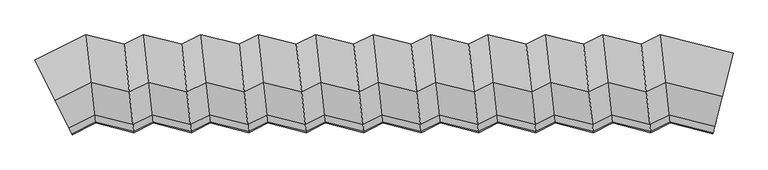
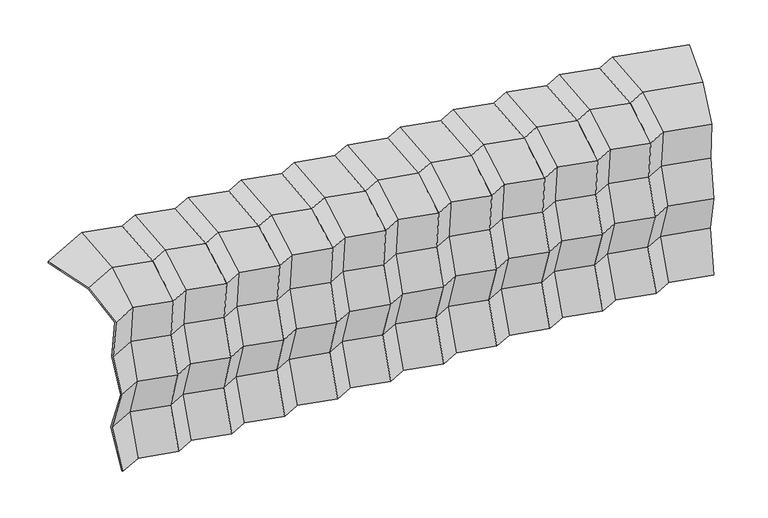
"""IFC4 building model written with IfcOpenShell, lengths in millimetres: proxy geometry, zagle_boczne : zagle_boczne."""

from ifc_helpers import new_model, si_unit, origin, place, context, project, spatial, faceted_brep, source, transform, mapped, element, save


def generic_models_0b0fc4db(model_context):
    return source(origin(), model_context, "Body", "Brep", [
        faceted_brep([(131358.2338018, 49708.468168, 6742.3586406), (131823.589123, 48777.7575256, 5820.7159812), (131775.8854941, 48873.1647835, 4409.9260399), (131926.6470181, 48571.6417353, 3008.5509151), (131758.6982772, 48907.5392172, 1584.7758945), (131946.6427942, 48531.6501832, -8.5120758), (131966.3273537, 48492.2810643, -8.5120758), (131778.3828367, 48868.1700982, 1584.7758945), (131948.0648358, 48528.8060999, 3023.2445038), (131798.4472815, 48828.0412087, 4413.9860753), (131846.7228839, 48731.4900038, 5841.6915938), (131369.2671963, 49686.401379, 6787.2991965), (130665.0257715, 51094.8842286, 7238.8462448), (130665.0257715, 51094.8842286, 7186.8312731), (154607.8434705, 49844.7473893, 6742.3586406), (154983.6387071, 51348.5641357, 7186.8312731), (154983.6387071, 51348.5641357, 7238.8462448), (154601.8621534, 49820.8120009, 6787.2991965), (154343.0284913, 48785.0394373, 5841.6915938), (154369.1991942, 48889.7665268, 4413.9860753), (154288.0899719, 48565.1924105, 3023.2445038), (154380.0763371, 48933.293501, 1584.7758945), (154278.1896723, 48525.5744619, -8.5120758), (154288.8608754, 48568.2773287, -8.5120758), (154390.7475402, 48975.9963678, 1584.7758945), (154299.7007922, 48611.6553358, 3008.5509151), (154381.4301723, 48938.7111325, 4409.9260399), (154355.5695421, 48835.2248586, 5820.7159812), (148747.5275343, 49236.642603, 5820.7159812), (148626.4118587, 50339.4730683, 6742.3586406), (149960.497165, 50006.0927515, 6742.3586406), (150081.6128406, 48903.2622863, 5820.7159812), (148735.1119521, 49349.6938843, 4409.9260399), (150069.1972584, 49016.3135676, 4409.9260399), (148730.6387221, 49390.4253114, 1584.7758945), (148774.3498914, 48992.4090438, 3008.5509151), (150108.4351977, 48659.028727, 3008.5509151), (150064.7240284, 49057.0449947, 1584.7758945), (148779.9241985, 48941.6516531, 3023.2445038), (148735.7619228, 49343.7755131, 1584.7758945), (150069.8472292, 49010.3951964, 1584.7758945), (150114.0095048, 48608.2713363, 3023.2445038), (148445.994111, 51982.2842702, 7186.8312731), (148445.994111, 51982.2842702, 7238.8462448), (149780.0794174, 51648.9039535, 7238.8462448), (149780.0794174, 51648.9039535, 7186.8312731), (136742.8514598, 49236.5427542, 5820.7159812), (136621.7357842, 50339.3732194, 6742.3586406), (137955.4215262, 50006.0927515, 6742.3586406), (138076.5372018, 48903.2622863, 5820.7159812), (136730.4358776, 49349.5940355, 4409.9260399), (138064.1216196, 49016.3135676, 4409.9260399), (136725.9626476, 49390.3254626, 1584.7758945), (136769.6738169, 48992.3091949, 3008.5509151), (138103.3595589, 48659.028727, 3008.5509151), (138059.6483896, 49057.0449947, 1584.7758945), (136775.248124, 48941.5518042, 3023.2445038), (136731.0858484, 49343.6756642, 1584.7758945), (138064.7715904, 49010.3951964, 1584.7758945), (138108.933866, 48608.2713363, 3023.2445038), (136441.3180366, 51982.1844214, 7186.8312731), (136441.3180366, 51982.1844214, 7238.8462448), (137775.0037786, 51648.9039535, 7238.8462448), (137775.0037786, 51648.9039535, 7186.8312731), (138622.1821597, 50339.4730683, 6742.3586406), (138743.2978353, 49236.642603, 5820.7159812), (138730.8822531, 49349.6938843, 4409.9260399), (138770.1201924, 48992.4090438, 3008.5509151), (138726.4090231, 49390.4253114, 1584.7758945), (138731.5322238, 49343.7755131, 1584.7758945), (138775.6944995, 48941.6516531, 3023.2445038), (138441.7644121, 51982.2842702, 7238.8462448), (138441.7644121, 51982.2842702, 7186.8312731), (139956.267466, 50006.0927515, 6742.3586406), (140077.3831416, 48903.2622863, 5820.7159812), (140064.9675594, 49016.3135676, 4409.9260399), (140104.2054987, 48659.028727, 3008.5509151), (140060.4943294, 49057.0449947, 1584.7758945), (140065.6175302, 49010.3951964, 1584.7758945), (140109.7798058, 48608.2713363, 3023.2445038), (139775.8497184, 51648.9039535, 7238.8462448), (139775.8497184, 51648.9039535, 7186.8312731), (140623.0280995, 50339.4730683, 6742.3586406), (140744.1437751, 49236.642603, 5820.7159812), (140731.7281929, 49349.6938843, 4409.9260399), (140770.9661322, 48992.4090438, 3008.5509151), (140727.2549629, 49390.4253114, 1584.7758945), (140732.3781636, 49343.7755131, 1584.7758945), (140776.5404393, 48941.6516531, 3023.2445038), (140442.6103518, 51982.2842702, 7238.8462448), (140442.6103518, 51982.2842702, 7186.8312731), (141957.1134058, 50006.0927515, 6742.3586406), (142078.2290814, 48903.2622863, 5820.7159812), (142065.8134992, 49016.3135676, 4409.9260399), (142105.0514385, 48659.028727, 3008.5509151), (142061.3402692, 49057.0449947, 1584.7758945), (142066.46347, 49010.3951964, 1584.7758945), (142110.6257456, 48608.2713363, 3023.2445038), (141776.6956582, 51648.9039535, 7238.8462448), (141776.6956582, 51648.9039535, 7186.8312731), (142623.8740393, 50339.4730683, 6742.3586406), (142744.9897149, 49236.642603, 5820.7159812), (142732.5741327, 49349.6938843, 4409.9260399), (142771.812072, 48992.4090438, 3008.5509151), (142728.1009027, 49390.4253114, 1584.7758945), (142733.2241034, 49343.7755131, 1584.7758945), (142777.3863791, 48941.6516531, 3023.2445038), (142443.4562916, 51982.2842702, 7238.8462448), (142443.4562916, 51982.2842702, 7186.8312731), (143957.9593456, 50006.0927515, 6742.3586406), (144079.0750212, 48903.2622863, 5820.7159812), (144066.659439, 49016.3135676, 4409.9260399), (144105.8973783, 48659.028727, 3008.5509151), (144062.186209, 49057.0449947, 1584.7758945), (144067.3094098, 49010.3951964, 1584.7758945), (144111.4716854, 48608.2713363, 3023.2445038), (143777.541598, 51648.9039535, 7238.8462448), (143777.541598, 51648.9039535, 7186.8312731), (144624.7199791, 50339.4730683, 6742.3586406), (144745.8356547, 49236.642603, 5820.7159812), (144733.4200725, 49349.6938843, 4409.9260399), (144772.6580118, 48992.4090438, 3008.5509151), (144728.9468425, 49390.4253114, 1584.7758945), (144734.0700432, 49343.7755131, 1584.7758945), (144778.2323189, 48941.6516531, 3023.2445038), (144444.3022314, 51982.2842702, 7238.8462448), (144444.3022314, 51982.2842702, 7186.8312731), (145958.8052854, 50006.0927515, 6742.3586406), (146079.920961, 48903.2622863, 5820.7159812), (146067.5053788, 49016.3135676, 4409.9260399), (146106.7433181, 48659.028727, 3008.5509151), (146063.0321488, 49057.0449947, 1584.7758945), (146068.1553496, 49010.3951964, 1584.7758945), (146112.3176252, 48608.2713363, 3023.2445038), (145778.3875378, 51648.9039535, 7238.8462448), (145778.3875378, 51648.9039535, 7186.8312731), (146625.5659189, 50339.4730683, 6742.3586406), (146746.6815945, 49236.642603, 5820.7159812), (146734.2660123, 49349.6938843, 4409.9260399), (146773.5039516, 48992.4090438, 3008.5509151), (146729.7927823, 49390.4253114, 1584.7758945), (146734.915983, 49343.7755131, 1584.7758945), (146779.0782587, 48941.6516531, 3023.2445038), (146445.1481712, 51982.2842702, 7238.8462448), (146445.1481712, 51982.2842702, 7186.8312731), (147959.6512252, 50006.0927515, 6742.3586406), (148080.7669008, 48903.2622863, 5820.7159812), (148068.3513186, 49016.3135676, 4409.9260399), (148107.5892579, 48659.028727, 3008.5509151), (148063.8780886, 49057.0449947, 1584.7758945), (148069.0012894, 49010.3951964, 1584.7758945), (148113.163565, 48608.2713363, 3023.2445038), (147779.2334776, 51648.9039535, 7238.8462448), (147779.2334776, 51648.9039535, 7186.8312731), (150627.2577985, 50339.4730683, 6742.3586406), (150748.3734741, 49236.642603, 5820.7159812), (150735.9578919, 49349.6938843, 4409.9260399), (150775.1958312, 48992.4090438, 3008.5509151), (150731.4846619, 49390.4253114, 1584.7758945), (150736.6078626, 49343.7755131, 1584.7758945), (150780.7701383, 48941.6516531, 3023.2445038), (150446.8400508, 51982.2842702, 7238.8462448), (150446.8400508, 51982.2842702, 7186.8312731), (151961.3431048, 50006.0927515, 6742.3586406), (152082.4587804, 48903.2622863, 5820.7159812), (152070.0431982, 49016.3135676, 4409.9260399), (152109.2811375, 48659.028727, 3008.5509151), (152065.5699682, 49057.0449947, 1584.7758945), (152070.693169, 49010.3951964, 1584.7758945), (152114.8554446, 48608.2713363, 3023.2445038), (151780.9253572, 51648.9039535, 7238.8462448), (151780.9253572, 51648.9039535, 7186.8312731), (136774.8780164, 48944.9218545, -8.5120758), (138108.5637584, 48611.6413866, -8.5120758), (136780.0012171, 48898.2720562, -8.5120758), (138113.6869591, 48564.9915883, -8.5120758), (136736.3079199, 49296.1255881, 4413.9860753), (138069.9936619, 48962.8451202, 4413.9860753), (136748.8723668, 49181.7188054, 5841.6915938), (138082.5581088, 48848.4383376, 5841.6915938), (136624.60739, 50313.225536, 6787.2991965), (137958.293132, 49979.9450681, 6787.2991965), (138775.3243919, 48945.0217034, -8.5120758), (138780.4475926, 48898.371905, -8.5120758), (138736.7542954, 49296.2254369, 4413.9860753), (138749.3187422, 49181.8186543, 5841.6915938), (138625.0537655, 50313.3253849, 6787.2991965), (140109.4096982, 48611.6413866, -8.5120758), (140114.5328989, 48564.9915883, -8.5120758), (140070.8396017, 48962.8451202, 4413.9860753), (140083.4040486, 48848.4383376, 5841.6915938), (139959.1390718, 49979.9450681, 6787.2991965), (140776.1703317, 48945.0217034, -8.5120758), (140781.2935324, 48898.371905, -8.5120758), (140737.6002352, 49296.2254369, 4413.9860753), (140750.164682, 49181.8186543, 5841.6915938), (140625.8997053, 50313.3253849, 6787.2991965), (142110.255638, 48611.6413866, -8.5120758), (142115.3788387, 48564.9915883, -8.5120758), (142071.6855415, 48962.8451202, 4413.9860753), (142084.2499884, 48848.4383376, 5841.6915938), (141959.9850116, 49979.9450681, 6787.2991965), (142777.0162715, 48945.0217034, -8.5120758), (142782.1394722, 48898.371905, -8.5120758), (142738.446175, 49296.2254369, 4413.9860753), (142751.0106218, 49181.8186543, 5841.6915938), (142626.7456451, 50313.3253849, 6787.2991965), (144111.1015778, 48611.6413866, -8.5120758), (144116.2247785, 48564.9915883, -8.5120758), (144072.5314813, 48962.8451202, 4413.9860753), (144085.0959282, 48848.4383376, 5841.6915938), (143960.8309514, 49979.9450681, 6787.2991965), (144777.8622113, 48945.0217034, -8.5120758), (144782.985412, 48898.371905, -8.5120758), (144739.2921148, 49296.2254369, 4413.9860753), (144751.8565616, 49181.8186543, 5841.6915938), (144627.5915849, 50313.3253849, 6787.2991965), (146111.9475176, 48611.6413866, -8.5120758), (146117.0707183, 48564.9915883, -8.5120758), (146073.3774211, 48962.8451202, 4413.9860753), (146085.941868, 48848.4383376, 5841.6915938), (145961.6768912, 49979.9450681, 6787.2991965), (146778.7081511, 48945.0217034, -8.5120758), (146783.8313518, 48898.371905, -8.5120758), (146740.1380546, 49296.2254369, 4413.9860753), (146752.7025014, 49181.8186543, 5841.6915938), (146628.4375247, 50313.3253849, 6787.2991965), (148112.7934574, 48611.6413866, -8.5120758), (148117.9166581, 48564.9915883, -8.5120758), (148074.2233609, 48962.8451202, 4413.9860753), (148086.7878078, 48848.4383376, 5841.6915938), (147962.522831, 49979.9450682, 6787.2991965), (148779.5540909, 48945.0217034, -8.5120758), (148784.6772916, 48898.371905, -8.5120758), (148740.9839944, 49296.2254369, 4413.9860753), (148753.5484412, 49181.8186543, 5841.6915938), (148629.2834645, 50313.3253849, 6787.2991965), (150113.6393972, 48611.6413866, -8.5120758), (150118.7625979, 48564.9915883, -8.5120758), (150075.0693007, 48962.8451202, 4413.9860753), (150087.6337476, 48848.4383376, 5841.6915938), (149963.3687708, 49979.9450682, 6787.2991965), (150780.4000307, 48945.0217034, -8.5120758), (150785.5232314, 48898.371905, -8.5120758), (150741.8299342, 49296.2254369, 4413.9860753), (150754.394381, 49181.8186543, 5841.6915938), (150630.1294043, 50313.3253849, 6787.2991965), (152114.485337, 48611.6413866, -8.5120758), (152119.6085377, 48564.9915883, -8.5120758), (152075.9152405, 48962.8451202, 4413.9860753), (152088.4796874, 48848.4383376, 5841.6915938), (151964.2147106, 49979.9450682, 6787.2991965), (132620.2436023, 50339.4730683, 6742.3586406), (132741.3592779, 49236.642603, 5820.7159812), (132728.9436957, 49349.6938843, 4409.9260399), (132768.181635, 48992.4090438, 3008.5509151), (132724.4704657, 49390.4253114, 1584.7758945), (132773.3858345, 48945.0217034, -8.5120758), (134107.4711408, 48611.6413866, -8.5120758), (134774.2317743, 48945.0217034, -8.5120758), (136108.3170806, 48611.6413866, -8.5120758), (152781.2459705, 48945.0217034, -8.5120758), (152786.3691712, 48898.371905, -8.5120758), (136113.4402814, 48564.9915883, -8.5120758), (134779.354975, 48898.371905, -8.5120758), (134112.5943416, 48564.9915883, -8.5120758), (132778.5090352, 48898.371905, -8.5120758), (132729.5936665, 49343.7755131, 1584.7758945), (132773.7559421, 48941.6516531, 3023.2445038), (132734.815738, 49296.2254369, 4413.9860753), (132747.3801849, 49181.8186543, 5841.6915938), (132623.1152081, 50313.3253849, 6787.2991965), (132439.8258547, 51982.2842702, 7238.8462448), (132439.8258547, 51982.2842702, 7186.8312731), (133954.3289087, 50006.0927515, 6742.3586406), (134075.4445843, 48903.2622863, 5820.7159812), (134063.029002, 49016.3135676, 4409.9260399), (134102.2669413, 48659.028727, 3008.5509151), (134058.555772, 49057.0449947, 1584.7758945), (134063.6789728, 49010.3951964, 1584.7758945), (134107.8412484, 48608.2713363, 3023.2445038), (134068.9010443, 48962.8451202, 4413.9860753), (134081.4654912, 48848.4383376, 5841.6915938), (133957.2005144, 49979.9450681, 6787.2991965), (133773.911161, 51648.9039535, 7238.8462448), (133773.911161, 51648.9039535, 7186.8312731), (134621.0895421, 50339.4730683, 6742.3586406), (134742.2052177, 49236.642603, 5820.7159812), (134729.7896355, 49349.6938843, 4409.9260399), (134769.0275748, 48992.4090438, 3008.5509151), (134725.3164055, 49390.4253114, 1584.7758945), (134730.4396063, 49343.7755131, 1584.7758945), (134774.6018819, 48941.6516531, 3023.2445038), (134735.6616778, 49296.2254369, 4413.9860753), (134748.2261247, 49181.8186543, 5841.6915938), (134623.9611479, 50313.3253849, 6787.2991965), (134440.6717945, 51982.2842702, 7238.8462448), (134440.6717945, 51982.2842702, 7186.8312731), (135955.1748485, 50006.0927515, 6742.3586406), (136076.2905241, 48903.2622863, 5820.7159812), (136063.8749418, 49016.3135676, 4409.9260399), (136103.1128811, 48659.028727, 3008.5509151), (136059.4017118, 49057.0449947, 1584.7758945), (136064.5249126, 49010.3951964, 1584.7758945), (136108.6871882, 48608.2713363, 3023.2445038), (136069.7469841, 48962.8451202, 4413.9860753), (136082.311431, 48848.4383376, 5841.6915938), (135958.0464542, 49979.9450681, 6787.2991965), (135774.7571008, 51648.9039535, 7238.8462448), (135774.7571008, 51648.9039535, 7186.8312731), (152628.1037383, 50339.4730683, 6742.3586406), (152749.2194139, 49236.642603, 5820.7159812), (152736.8038317, 49349.6938843, 4409.9260399), (152776.041771, 48992.4090438, 3008.5509151), (152732.3306017, 49390.4253114, 1584.7758945), (152737.4538024, 49343.7755131, 1584.7758945), (152781.6160781, 48941.6516531, 3023.2445038), (152742.675874, 49296.2254369, 4413.9860753), (152755.2403208, 49181.8186543, 5841.6915938), (152630.9753441, 50313.3253849, 6787.2991965), (152447.6859906, 51982.2842702, 7238.8462448), (152447.6859906, 51982.2842702, 7186.8312731)], [[[0, 1, 2, 3, 4, 5, 6, 7, 8, 9, 10, 11, 12, 13]], [[14, 15, 16, 17, 18, 19, 20, 21, 22, 23, 24, 25, 26, 27]], [[28, 29, 30, 31]], [[32, 28, 31, 33]], [[34, 35, 36, 37]], [[38, 39, 40, 41]], [[42, 43, 44, 45]], [[29, 42, 45, 30]], [[46, 47, 48, 49]], [[50, 46, 49, 51]], [[52, 53, 54, 55]], [[56, 57, 58, 59]], [[60, 61, 62, 63]], [[47, 60, 63, 48]], [[49, 48, 64, 65]], [[51, 49, 65, 66]], [[55, 54, 67, 68]], [[59, 58, 69, 70]], [[63, 62, 71, 72]], [[48, 63, 72, 64]], [[65, 64, 73, 74]], [[66, 65, 74, 75]], [[68, 67, 76, 77]], [[70, 69, 78, 79]], [[72, 71, 80, 81]], [[64, 72, 81, 73]], [[74, 73, 82, 83]], [[75, 74, 83, 84]], [[77, 76, 85, 86]], [[79, 78, 87, 88]], [[81, 80, 89, 90]], [[73, 81, 90, 82]], [[83, 82, 91, 92]], [[84, 83, 92, 93]], [[86, 85, 94, 95]], [[88, 87, 96, 97]], [[90, 89, 98, 99]], [[82, 90, 99, 91]], [[92, 91, 100, 101]], [[93, 92, 101, 102]], [[95, 94, 103, 104]], [[97, 96, 105, 106]], [[99, 98, 107, 108]], [[91, 99, 108, 100]], [[101, 100, 109, 110]], [[102, 101, 110, 111]], [[104, 103, 112, 113]], [[106, 105, 114, 115]], [[108, 107, 116, 117]], [[100, 108, 117, 109]], [[110, 109, 118, 119]], [[111, 110, 119, 120]], [[113, 112, 121, 122]], [[115, 114, 123, 124]], [[117, 116, 125, 126]], [[109, 117, 126, 118]], [[119, 118, 127, 128]], [[120, 119, 128, 129]], [[122, 121, 130, 131]], [[124, 123, 132, 133]], [[126, 125, 134, 135]], [[118, 126, 135, 127]], [[128, 127, 136, 137]], [[129, 128, 137, 138]], [[131, 130, 139, 140]], [[133, 132, 141, 142]], [[135, 134, 143, 144]], [[127, 135, 144, 136]], [[137, 136, 145, 146]], [[138, 137, 146, 147]], [[140, 139, 148, 149]], [[142, 141, 150, 151]], [[144, 143, 152, 153]], [[136, 144, 153, 145]], [[146, 145, 29, 28]], [[147, 146, 28, 32]], [[149, 148, 35, 34]], [[151, 150, 39, 38]], [[153, 152, 43, 42]], [[145, 153, 42, 29]], [[31, 30, 154, 155]], [[33, 31, 155, 156]], [[37, 36, 157, 158]], [[41, 40, 159, 160]], [[45, 44, 161, 162]], [[30, 45, 162, 154]], [[155, 154, 163, 164]], [[156, 155, 164, 165]], [[158, 157, 166, 167]], [[160, 159, 168, 169]], [[162, 161, 170, 171]], [[154, 162, 171, 163]], [[53, 50, 51, 54]], [[172, 52, 55, 173]], [[57, 174, 175, 58]], [[176, 56, 59, 177]], [[178, 176, 177, 179]], [[180, 178, 179, 181]], [[61, 180, 181, 62]], [[54, 51, 66, 67]], [[173, 55, 68, 182]], [[58, 175, 183, 69]], [[177, 59, 70, 184]], [[179, 177, 184, 185]], [[181, 179, 185, 186]], [[62, 181, 186, 71]], [[67, 66, 75, 76]], [[182, 68, 77, 187]], [[69, 183, 188, 78]], [[184, 70, 79, 189]], [[185, 184, 189, 190]], [[186, 185, 190, 191]], [[71, 186, 191, 80]], [[76, 75, 84, 85]], [[187, 77, 86, 192]], [[78, 188, 193, 87]], [[189, 79, 88, 194]], [[190, 189, 194, 195]], [[191, 190, 195, 196]], [[80, 191, 196, 89]], [[85, 84, 93, 94]], [[192, 86, 95, 197]], [[87, 193, 198, 96]], [[194, 88, 97, 199]], [[195, 194, 199, 200]], [[196, 195, 200, 201]], [[89, 196, 201, 98]], [[94, 93, 102, 103]], [[197, 95, 104, 202]], [[96, 198, 203, 105]], [[199, 97, 106, 204]], [[200, 199, 204, 205]], [[201, 200, 205, 206]], [[98, 201, 206, 107]], [[103, 102, 111, 112]], [[202, 104, 113, 207]], [[105, 203, 208, 114]], [[204, 106, 115, 209]], [[205, 204, 209, 210]], [[206, 205, 210, 211]], [[107, 206, 211, 116]], [[112, 111, 120, 121]], [[207, 113, 122, 212]], [[114, 208, 213, 123]], [[209, 115, 124, 214]], [[210, 209, 214, 215]], [[211, 210, 215, 216]], [[116, 211, 216, 125]], [[121, 120, 129, 130]], [[212, 122, 131, 217]], [[123, 213, 218, 132]], [[214, 124, 133, 219]], [[215, 214, 219, 220]], [[216, 215, 220, 221]], [[125, 216, 221, 134]], [[130, 129, 138, 139]], [[217, 131, 140, 222]], [[132, 218, 223, 141]], [[219, 133, 142, 224]], [[220, 219, 224, 225]], [[221, 220, 225, 226]], [[134, 221, 226, 143]], [[139, 138, 147, 148]], [[222, 140, 149, 227]], [[141, 223, 228, 150]], [[224, 142, 151, 229]], [[225, 224, 229, 230]], [[226, 225, 230, 231]], [[143, 226, 231, 152]], [[148, 147, 32, 35]], [[227, 149, 34, 232]], [[150, 228, 233, 39]], [[229, 151, 38, 234]], [[230, 229, 234, 235]], [[231, 230, 235, 236]], [[152, 231, 236, 43]], [[35, 32, 33, 36]], [[232, 34, 37, 237]], [[39, 233, 238, 40]], [[234, 38, 41, 239]], [[235, 234, 239, 240]], [[236, 235, 240, 241]], [[43, 236, 241, 44]], [[36, 33, 156, 157]], [[237, 37, 158, 242]], [[40, 238, 243, 159]], [[239, 41, 160, 244]], [[240, 239, 244, 245]], [[241, 240, 245, 246]], [[44, 241, 246, 161]], [[157, 156, 165, 166]], [[242, 158, 167, 247]], [[159, 243, 248, 168]], [[244, 160, 169, 249]], [[245, 244, 249, 250]], [[246, 245, 250, 251]], [[161, 246, 251, 170]], [[1, 0, 252, 253]], [[2, 1, 253, 254]], [[3, 2, 254, 255]], [[4, 3, 255, 256]], [[5, 4, 256, 257]], [[6, 5, 257, 258, 259, 260, 172, 173, 182, 187, 192, 197, 202, 207, 212, 217, 222, 227, 232, 237, 242, 247, 261, 23, 22, 262, 248, 243, 238, 233, 228, 223, 218, 213, 208, 203, 198, 193, 188, 183, 175, 174, 263, 264, 265, 266]], [[7, 6, 266, 267]], [[8, 7, 267, 268]], [[9, 8, 268, 269]], [[10, 9, 269, 270]], [[11, 10, 270, 271]], [[12, 11, 271, 272]], [[13, 12, 272, 273]], [[0, 13, 273, 252]], [[253, 252, 274, 275]], [[254, 253, 275, 276]], [[255, 254, 276, 277]], [[256, 255, 277, 278]], [[257, 256, 278, 258]], [[267, 266, 265, 279]], [[268, 267, 279, 280]], [[269, 268, 280, 281]], [[270, 269, 281, 282]], [[271, 270, 282, 283]], [[272, 271, 283, 284]], [[273, 272, 284, 285]], [[252, 273, 285, 274]], [[275, 274, 286, 287]], [[276, 275, 287, 288]], [[277, 276, 288, 289]], [[278, 277, 289, 290]], [[258, 278, 290, 259]], [[279, 265, 264, 291]], [[280, 279, 291, 292]], [[281, 280, 292, 293]], [[282, 281, 293, 294]], [[283, 282, 294, 295]], [[284, 283, 295, 296]], [[285, 284, 296, 297]], [[274, 285, 297, 286]], [[287, 286, 298, 299]], [[288, 287, 299, 300]], [[289, 288, 300, 301]], [[290, 289, 301, 302]], [[259, 290, 302, 260]], [[291, 264, 263, 303]], [[292, 291, 303, 304]], [[293, 292, 304, 305]], [[294, 293, 305, 306]], [[295, 294, 306, 307]], [[296, 295, 307, 308]], [[297, 296, 308, 309]], [[286, 297, 309, 298]], [[299, 298, 47, 46]], [[300, 299, 46, 50]], [[301, 300, 50, 53]], [[302, 301, 53, 52]], [[260, 302, 52, 172]], [[303, 263, 174, 57]], [[304, 303, 57, 56]], [[305, 304, 56, 176]], [[306, 305, 176, 178]], [[307, 306, 178, 180]], [[308, 307, 180, 61]], [[309, 308, 61, 60]], [[298, 309, 60, 47]], [[164, 163, 310, 311]], [[165, 164, 311, 312]], [[166, 165, 312, 313]], [[167, 166, 313, 314]], [[247, 167, 314, 261]], [[168, 248, 262, 315]], [[169, 168, 315, 316]], [[249, 169, 316, 317]], [[250, 249, 317, 318]], [[251, 250, 318, 319]], [[170, 251, 319, 320]], [[171, 170, 320, 321]], [[163, 171, 321, 310]], [[311, 310, 14, 27]], [[312, 311, 27, 26]], [[313, 312, 26, 25]], [[314, 313, 25, 24]], [[261, 314, 24, 23]], [[315, 262, 22, 21]], [[316, 315, 21, 20]], [[317, 316, 20, 19]], [[318, 317, 19, 18]], [[319, 318, 18, 17]], [[320, 319, 17, 16]], [[321, 320, 16, 15]], [[310, 321, 15, 14]]]),
    ])


if __name__ == "__main__":
    model = new_model("IFC4")
    model_context = context("Model", 3, world=origin())
    ifc_project = project(units=[si_unit("LENGTHUNIT", "METRE", prefix="MILLI")], contexts=[model_context])
    site = spatial("IfcSite", under=ifc_project)
    building = spatial("IfcBuilding", under=site)
    placement = place(None, origin())
    generic_models_shape = generic_models_0b0fc4db(model_context)
    element("IfcBuildingElementProxy", 1, Name="zagle_boczne : zagle_boczne", ObjectType="zagle_boczne : zagle_boczne", at=placement, inside=building, context=model_context, shape_type="MappedRepresentation", body=[
        mapped(generic_models_shape, transform((0.0, 0.0, 0.0), x_axis=(1.0, 0.0, 0.0), y_axis=(0.0, 1.0, 0.0), z_axis=(0.0, 0.0, 1.0))),
    ])
    save(model, "model.ifc")
